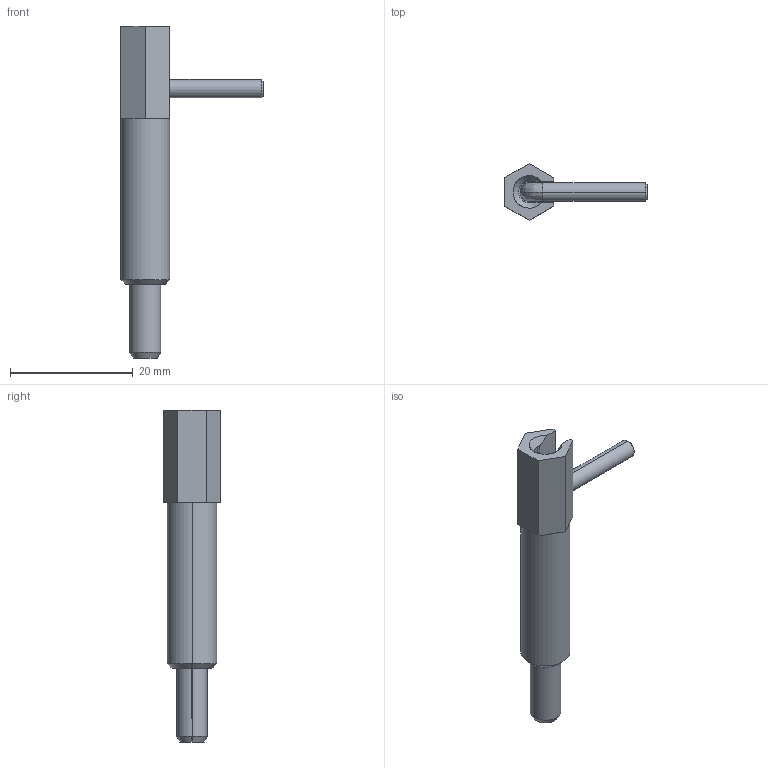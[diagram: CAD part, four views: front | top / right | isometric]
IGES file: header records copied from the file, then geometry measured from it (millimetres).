
Start section: SolidWorks IGES file using analytic representation for surfaces
Global section: file name: X:\11_SW2020-Inv2020\00_全2021-11新製品まで\l\LBLT5\lblt5.IGS; native system: SolidWorks 2020; preprocessor: SolidWorks 2020; author: ImaoCorp; date: 211025.114559; units: millimetre
Bounding box: 23.2 x 9.24 x 54 mm (x, y, z)
Surface area: 1737.9 mm2 (no closed solid volume)
Topology: 0 solids, 0 shells, 40 faces, 483 edges, 483 vertices
Faces by surface type: bspline 21, revolution 19
